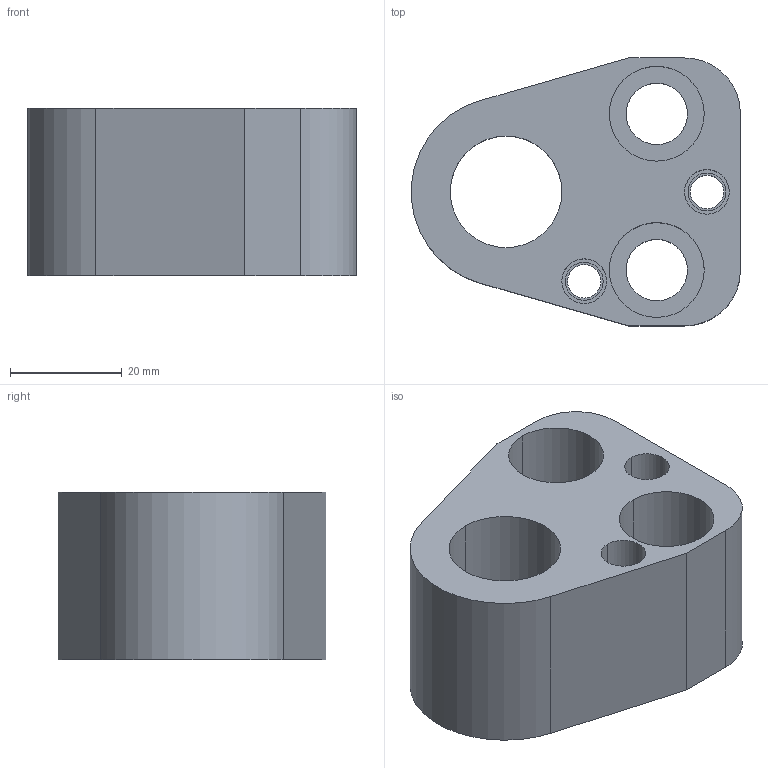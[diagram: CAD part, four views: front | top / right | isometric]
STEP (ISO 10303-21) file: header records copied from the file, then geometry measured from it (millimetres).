
FILE_DESCRIPTION(/* description */ (''),/* implementation_level */ '2;1');
FILE_NAME(/* name */ '3d_ap-an20_03187_r00.stp',/* time_stamp */ '2011-01-10T14:17:47+09:00',/* author */ ('MISUMI'),/* organization */ (''),/* preprocessor_version */ 'ST-DEVELOPER v11',/* originating_system */ 'UGS - NX 5.0',/* authorisation */ '');
FILE_SCHEMA (('CONFIG_CONTROL_DESIGN'));
Length unit declared in the file: millimetre
Products named in the file (1): 3d_ap-an20_03187_r00
Bounding box: 58.94 x 48 x 30 mm (x, y, z)
Volume: 45804.7 mm3; surface area: 14741.4 mm2
Topology: 1 solids, 1 shells, 43 faces, 100 edges, 66 vertices
Faces by surface type: cylinder 27, plane 14, cone 2
Entity records: 1360 total; most frequent: DIRECTION 244, CARTESIAN_POINT 210, ORIENTED_EDGE 200, EDGE_CURVE 100, AXIS2_PLACEMENT_3D 100, VERTEX_POINT 66, EDGE_LOOP 60, CIRCLE 56
